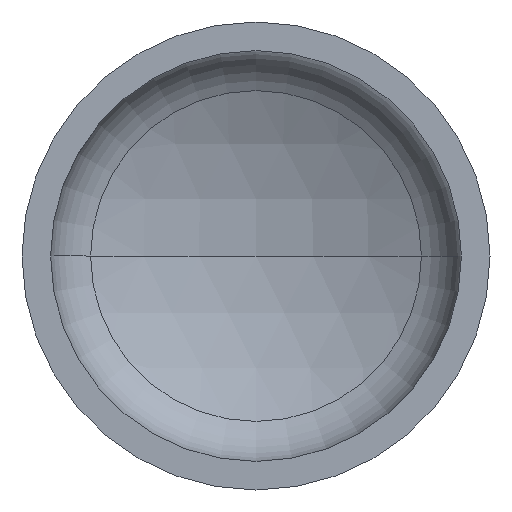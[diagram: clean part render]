
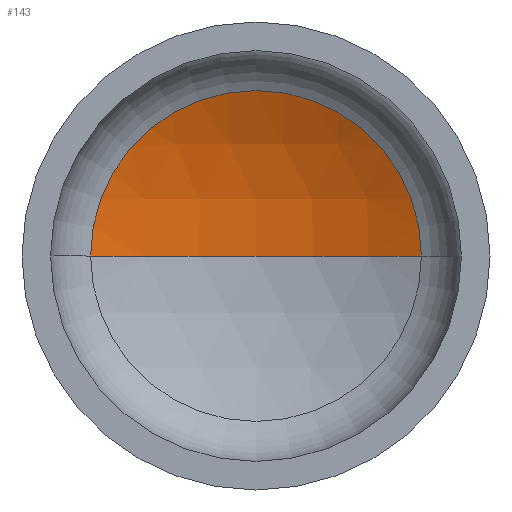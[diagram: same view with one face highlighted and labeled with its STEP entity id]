
A CAD part, front view. The second image highlights one B-rep face of the part: STEP entity #143.
In plain terms, the highlighted spherical face has radius 1360 mm.
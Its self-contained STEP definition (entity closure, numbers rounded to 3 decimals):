
#11 = EDGE_LOOP ( 'NONE', ( #18, #100, #70 ) ) ;
#18 = ORIENTED_EDGE ( 'NONE', *, *, #369, .F. ) ;
#19 = VERTEX_POINT ( 'NONE', #354 ) ;
#22 = AXIS2_PLACEMENT_3D ( 'NONE', #55, #304, #199 ) ;
#35 = CIRCLE ( 'NONE', #94, 600.873 ) ;
#36 = AXIS2_PLACEMENT_3D ( 'NONE', #380, #258, #402 ) ;
#46 = DIRECTION ( 'NONE',  ( 0., -1., 0. ) ) ;
#53 = CARTESIAN_POINT ( 'NONE',  ( 0., 308.247, 0. ) ) ;
#55 = CARTESIAN_POINT ( 'NONE',  ( 0., -911.815, 0. ) ) ;
#70 = ORIENTED_EDGE ( 'NONE', *, *, #207, .T. ) ;
#94 = AXIS2_PLACEMENT_3D ( 'NONE', #53, #46, #185 ) ;
#99 = VERTEX_POINT ( 'NONE', #252 ) ;
#100 = ORIENTED_EDGE ( 'NONE', *, *, #367, .T. ) ;
#138 = FACE_OUTER_BOUND ( 'NONE', #11, .T. ) ;
#140 = VERTEX_POINT ( 'NONE', #249 ) ;
#143 = ADVANCED_FACE ( 'NONE', ( #138 ), #219, .F. ) ;
#144 = CIRCLE ( 'NONE', #36, 1360. ) ;
#150 = AXIS2_PLACEMENT_3D ( 'NONE', #234, #333, #332 ) ;
#185 = DIRECTION ( 'NONE',  ( 1., 0., 0. ) ) ;
#199 = DIRECTION ( 'NONE',  ( 1., 0., 0. ) ) ;
#207 = EDGE_CURVE ( 'NONE', #99, #140, #35, .T. ) ;
#219 = SPHERICAL_SURFACE ( 'NONE', #150, 1360. ) ;
#234 = CARTESIAN_POINT ( 'NONE',  ( 0., -911.815, 0. ) ) ;
#249 = CARTESIAN_POINT ( 'NONE',  ( -600.873, 308.247, 0. ) ) ;
#252 = CARTESIAN_POINT ( 'NONE',  ( 600.873, 308.247, 0. ) ) ;
#258 = DIRECTION ( 'NONE',  ( 0., 0., -1. ) ) ;
#304 = DIRECTION ( 'NONE',  ( 0., 0., 1. ) ) ;
#332 = DIRECTION ( 'NONE',  ( -1., 0., 0. ) ) ;
#333 = DIRECTION ( 'NONE',  ( 0., 0., -1. ) ) ;
#341 = CIRCLE ( 'NONE', #22, 1360. ) ;
#354 = CARTESIAN_POINT ( 'NONE',  ( 0., 448.185, 0. ) ) ;
#367 = EDGE_CURVE ( 'NONE', #19, #99, #144, .T. ) ;
#369 = EDGE_CURVE ( 'NONE', #19, #140, #341, .T. ) ;
#380 = CARTESIAN_POINT ( 'NONE',  ( 0., -911.815, 0. ) ) ;
#402 = DIRECTION ( 'NONE',  ( -1., 0., 0. ) ) ;
